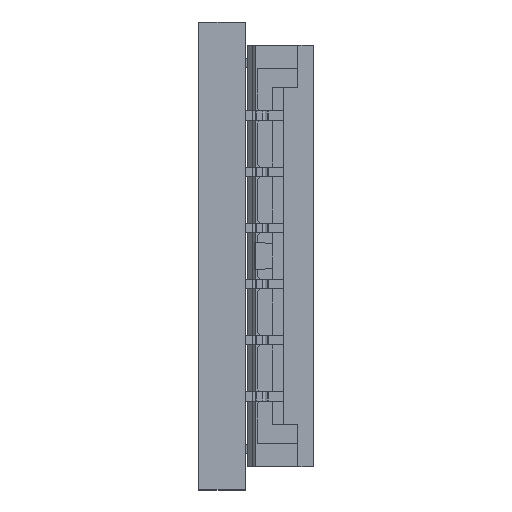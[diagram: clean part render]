
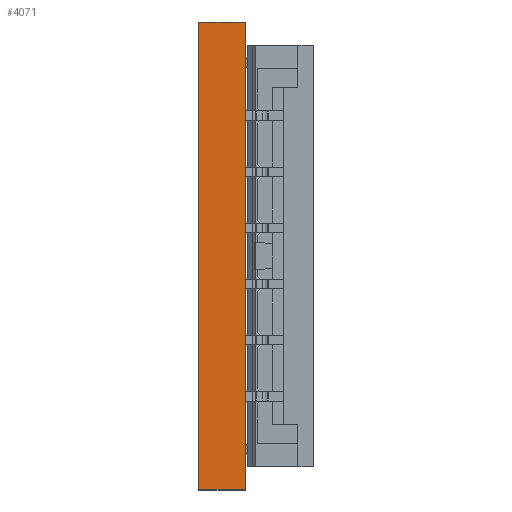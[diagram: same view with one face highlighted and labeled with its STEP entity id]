
A CAD part, left-side view. The second image highlights one B-rep face of the part: STEP entity #4071.
In plain terms, the highlighted planar face has unit normal (-1, 0, 0).
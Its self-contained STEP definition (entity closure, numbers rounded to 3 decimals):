
#963 = DIRECTION ( 'NONE',  ( 0., 1., 0. ) ) ;
#1058 = PLANE ( 'NONE',  #7094 ) ;
#1210 = LINE ( 'NONE', #6971, #8735 ) ;
#1258 = LINE ( 'NONE', #6890, #7286 ) ;
#1340 = CARTESIAN_POINT ( 'NONE',  ( -57., -1., 5. ) ) ;
#1474 = VERTEX_POINT ( 'NONE', #1340 ) ;
#1602 = CARTESIAN_POINT ( 'NONE',  ( -57., 0., 5. ) ) ;
#1675 = CARTESIAN_POINT ( 'NONE',  ( -57., 0., -5. ) ) ;
#1827 = DIRECTION ( 'NONE',  ( -1., 0., 0. ) ) ;
#2483 = CARTESIAN_POINT ( 'NONE',  ( -57., 0., 5. ) ) ;
#2545 = EDGE_LOOP ( 'NONE', ( #3851, #5154, #8819, #7279 ) ) ;
#2859 = EDGE_CURVE ( 'NONE', #1474, #5759, #5146, .T. ) ;
#3200 = VECTOR ( 'NONE', #7748, 1000. ) ;
#3851 = ORIENTED_EDGE ( 'NONE', *, *, #9058, .F. ) ;
#3987 = CARTESIAN_POINT ( 'NONE',  ( -57., -1., 5. ) ) ;
#4000 = DIRECTION ( 'NONE',  ( 0., 1., 0. ) ) ;
#4071 = ADVANCED_FACE ( 'NONE', ( #5147 ), #1058, .T. ) ;
#4452 = CARTESIAN_POINT ( 'NONE',  ( -57., -1., 5. ) ) ;
#4596 = VERTEX_POINT ( 'NONE', #1675 ) ;
#4772 = DIRECTION ( 'NONE',  ( 0., 0., 1. ) ) ;
#5146 = LINE ( 'NONE', #4452, #5579 ) ;
#5147 = FACE_OUTER_BOUND ( 'NONE', #2545, .T. ) ;
#5154 = ORIENTED_EDGE ( 'NONE', *, *, #5540, .F. ) ;
#5540 = EDGE_CURVE ( 'NONE', #7753, #4596, #1210, .T. ) ;
#5579 = VECTOR ( 'NONE', #963, 1000. ) ;
#5759 = VERTEX_POINT ( 'NONE', #2483 ) ;
#6290 = DIRECTION ( 'NONE',  ( 0., 0., 1. ) ) ;
#6717 = EDGE_CURVE ( 'NONE', #7753, #1474, #1258, .T. ) ;
#6890 = CARTESIAN_POINT ( 'NONE',  ( -57., -1., 5. ) ) ;
#6971 = CARTESIAN_POINT ( 'NONE',  ( -57., -1., -5. ) ) ;
#7094 = AXIS2_PLACEMENT_3D ( 'NONE', #3987, #1827, #4772 ) ;
#7279 = ORIENTED_EDGE ( 'NONE', *, *, #2859, .T. ) ;
#7286 = VECTOR ( 'NONE', #6290, 1000. ) ;
#7748 = DIRECTION ( 'NONE',  ( 0., 0., 1. ) ) ;
#7753 = VERTEX_POINT ( 'NONE', #8657 ) ;
#7833 = LINE ( 'NONE', #1602, #3200 ) ;
#8657 = CARTESIAN_POINT ( 'NONE',  ( -57., -1., -5. ) ) ;
#8735 = VECTOR ( 'NONE', #4000, 1000. ) ;
#8819 = ORIENTED_EDGE ( 'NONE', *, *, #6717, .T. ) ;
#9058 = EDGE_CURVE ( 'NONE', #4596, #5759, #7833, .T. ) ;
